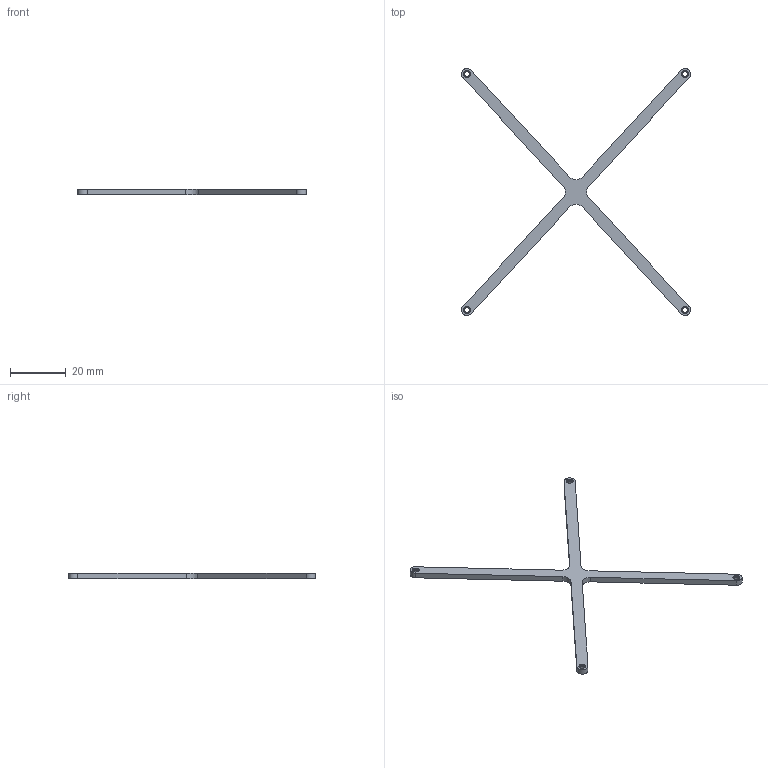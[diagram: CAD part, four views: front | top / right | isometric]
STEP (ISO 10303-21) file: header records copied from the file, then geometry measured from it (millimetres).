
FILE_DESCRIPTION((''),'2;1');
FILE_NAME('TRUSS','2020-03-13T',('g0715'),(''),'PRO/ENGINEER BY PARAMETRIC TECHNOLOGY CORPORATION, 2014090','PRO/ENGINEER BY PARAMETRIC TECHNOLOGY CORPORATION, 2014090','');
FILE_SCHEMA(('CONFIG_CONTROL_DESIGN'));
Length unit declared in the file: millimetre
Products named in the file (1): TRUSS
Bounding box: 82 x 88.5 x 2 mm (x, y, z)
Volume: 1849.2 mm3; surface area: 2832 mm2
Topology: 1 solids, 1 shells, 38 faces, 96 edges, 64 vertices
Faces by surface type: cylinder 24, plane 14
Entity records: 1222 total; most frequent: DIRECTION 220, CARTESIAN_POINT 198, ORIENTED_EDGE 192, EDGE_CURVE 96, AXIS2_PLACEMENT_3D 86, VERTEX_POINT 64, EDGE_LOOP 50, VECTOR 48
